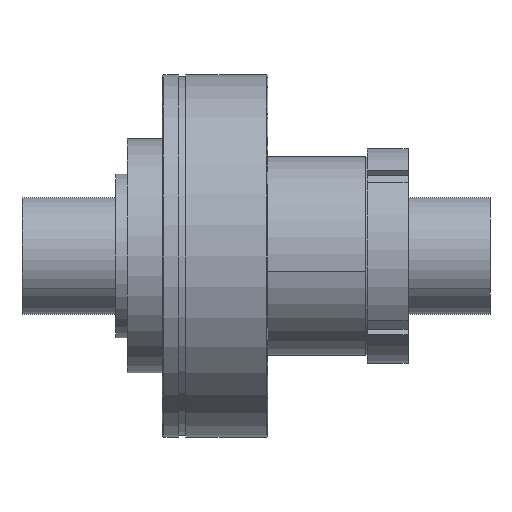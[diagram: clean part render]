
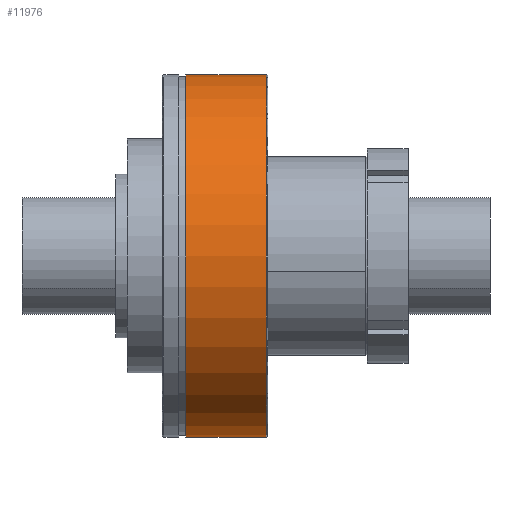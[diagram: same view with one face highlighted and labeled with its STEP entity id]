
A CAD part, front view. The second image highlights one B-rep face of the part: STEP entity #11976.
In plain terms, the highlighted cylindrical face has radius 77.5 mm (diameter 155 mm), a partial arc.
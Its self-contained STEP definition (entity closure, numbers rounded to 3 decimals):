
#2051 = ORIENTED_EDGE ( 'NONE', *, *, #8348, .F. ) ;
#2052 = ORIENTED_EDGE ( 'NONE', *, *, #8405, .T. ) ;
#2053 = ORIENTED_EDGE ( 'NONE', *, *, #8351, .T. ) ;
#2054 = ORIENTED_EDGE ( 'NONE', *, *, #3923, .F. ) ;
#2055 = ORIENTED_EDGE ( 'NONE', *, *, #8406, .F. ) ;
#2530 = CIRCLE ( 'NONE', #8850, 77.5 ) ;
#2754 = VERTEX_POINT ( 'NONE', #3456 ) ;
#2846 = VERTEX_POINT ( 'NONE', #3060 ) ;
#2858 = VERTEX_POINT ( 'NONE', #3654 ) ;
#2930 = VERTEX_POINT ( 'NONE', #3262 ) ;
#3060 = CARTESIAN_POINT ( 'NONE',  ( 10., 0., -77.5 ) ) ;
#3262 = CARTESIAN_POINT ( 'NONE',  ( 44.4, -77.5, 0. ) ) ;
#3335 = CARTESIAN_POINT ( 'NONE',  ( 10., 0., 77.5 ) ) ;
#3456 = CARTESIAN_POINT ( 'NONE',  ( 44.4, 0., -77.5 ) ) ;
#3536 = VERTEX_POINT ( 'NONE', #3335 ) ;
#3654 = CARTESIAN_POINT ( 'NONE',  ( 44.4, 0., 77.5 ) ) ;
#3923 = EDGE_CURVE ( 'NONE', #2930, #2754, #2530, .T. ) ;
#4178 = DIRECTION ( 'NONE',  ( 0., 0., -1. ) ) ;
#4193 = DIRECTION ( 'NONE',  ( 1., 0., 0. ) ) ;
#4201 = CARTESIAN_POINT ( 'NONE',  ( 27.2, 0., 0. ) ) ;
#6588 = CARTESIAN_POINT ( 'NONE',  ( 27.2, 0., 77.5 ) ) ;
#6596 = DIRECTION ( 'NONE',  ( 1., 0., 0. ) ) ;
#6603 = CARTESIAN_POINT ( 'NONE',  ( 27.2, 0., -77.5 ) ) ;
#6604 = DIRECTION ( 'NONE',  ( 1., 0., 0. ) ) ;
#6768 = CARTESIAN_POINT ( 'NONE',  ( 10., 0., 0. ) ) ;
#6771 = CARTESIAN_POINT ( 'NONE',  ( 44.4, 0., 0. ) ) ;
#6775 = DIRECTION ( 'NONE',  ( 1., 0., 0. ) ) ;
#6776 = DIRECTION ( 'NONE',  ( 0., 0., 1. ) ) ;
#6778 = DIRECTION ( 'NONE',  ( 1., 0., 0. ) ) ;
#6779 = DIRECTION ( 'NONE',  ( 0., 0., 1. ) ) ;
#7809 = EDGE_LOOP ( 'NONE', ( #2051, #2052, #2053, #2054, #2055 ) ) ;
#8348 = EDGE_CURVE ( 'NONE', #3536, #2858, #13018, .T. ) ;
#8351 = EDGE_CURVE ( 'NONE', #2846, #2754, #13022, .T. ) ;
#8405 = EDGE_CURVE ( 'NONE', #3536, #2846, #13091, .T. ) ;
#8406 = EDGE_CURVE ( 'NONE', #2858, #2930, #13092, .T. ) ;
#8850 = AXIS2_PLACEMENT_3D ( 'NONE', #9979, #9980, #9981 ) ;
#9210 = AXIS2_PLACEMENT_3D ( 'NONE', #6768, #6775, #6776 ) ;
#9211 = AXIS2_PLACEMENT_3D ( 'NONE', #6771, #6778, #6779 ) ;
#9541 = AXIS2_PLACEMENT_3D ( 'NONE', #4201, #4193, #4178 ) ;
#9979 = CARTESIAN_POINT ( 'NONE',  ( 44.4, 0., 0. ) ) ;
#9980 = DIRECTION ( 'NONE',  ( 1., 0., 0. ) ) ;
#9981 = DIRECTION ( 'NONE',  ( 0., 0., 1. ) ) ;
#11566 = FACE_OUTER_BOUND ( 'NONE', #7809, .T. ) ;
#11586 = CYLINDRICAL_SURFACE ( 'NONE', #9541, 77.5 ) ;
#11976 = ADVANCED_FACE ( 'NONE', ( #11566 ), #11586, .T. ) ;
#13018 = LINE ( 'NONE', #6588, #13020 ) ;
#13020 = VECTOR ( 'NONE', #6596, 1000. ) ;
#13022 = LINE ( 'NONE', #6603, #13023 ) ;
#13023 = VECTOR ( 'NONE', #6604, 1000. ) ;
#13091 = CIRCLE ( 'NONE', #9210, 77.5 ) ;
#13092 = CIRCLE ( 'NONE', #9211, 77.5 ) ;
